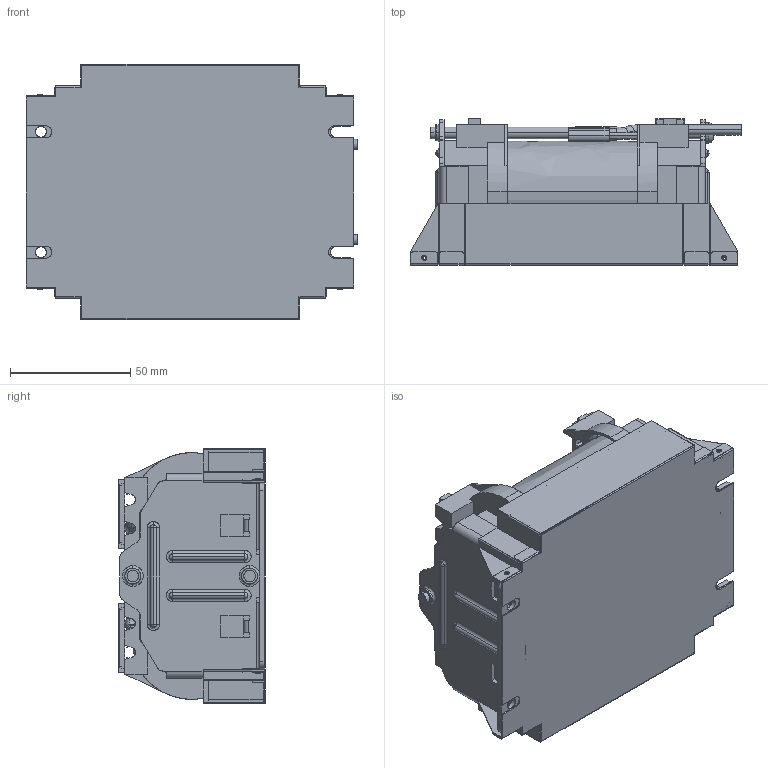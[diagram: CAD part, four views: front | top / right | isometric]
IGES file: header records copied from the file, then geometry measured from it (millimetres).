
Start section: SolidWorks IGES file using analytic representation for surfaces
Global section: file name: 34H\\10.106.230.1\R&D File\05_COMP\02_Mechanical\10_Others\PV_RT 81\网络用3D模型\半灌封模型\4KW_P_DCL\SP12224B-PM00SS20R(M-4KW_DCL-P).IGS; native system: SolidWorks 2009; preprocessor: SolidWorks 2009; author: Administrator; date: 120508.161322; units: millimetre
Bounding box: 137.5 x 60.9 x 106 mm (x, y, z)
Surface area: 182970.7 mm2 (no closed solid volume)
Topology: 0 solids, 0 shells, 1126 faces, 9049 edges, 9026 vertices
Faces by surface type: bspline 744, revolution 382
